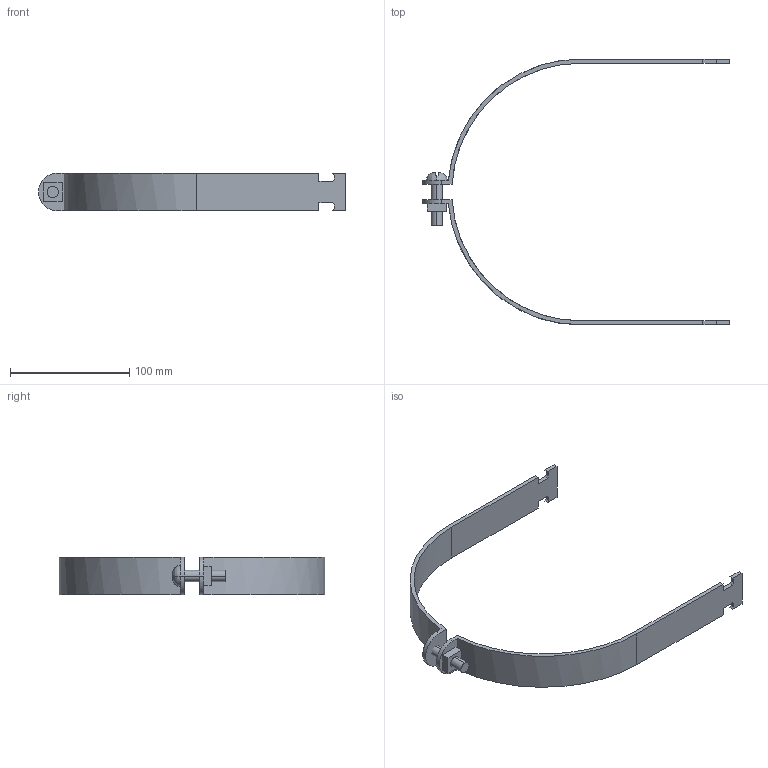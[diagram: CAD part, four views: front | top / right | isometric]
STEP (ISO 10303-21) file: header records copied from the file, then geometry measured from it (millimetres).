
FILE_DESCRIPTION(('TurboCAD Mac Pro'),'Build 980');
FILE_NAME('P2070-84.stp',' ',(''),(''),'ACIS Interop','IMSI','TurboCAD Mac Pro BY IMSI, INCORPORATED');
FILE_SCHEMA(('automotive_design'));
Length unit declared in the file: inch
Products named in the file (5): 1; 2; 3; 4; 5
Bounding box: 257.18 x 222.65 x 31.75 mm (x, y, z)
Volume: 70915.1 mm3; surface area: 46150.8 mm2
Topology: 4 solids, 4 shells, 71 faces, 186 edges, 124 vertices
Faces by surface type: plane 51, bspline 20
Entity records: 3487 total; most frequent: CARTESIAN_POINT 1050, ORIENTED_EDGE 372, DIRECTION 258, EDGE_CURVE 186, LINE 138, VECTOR 138, VERTEX_POINT 124, STYLED_ITEM 91
